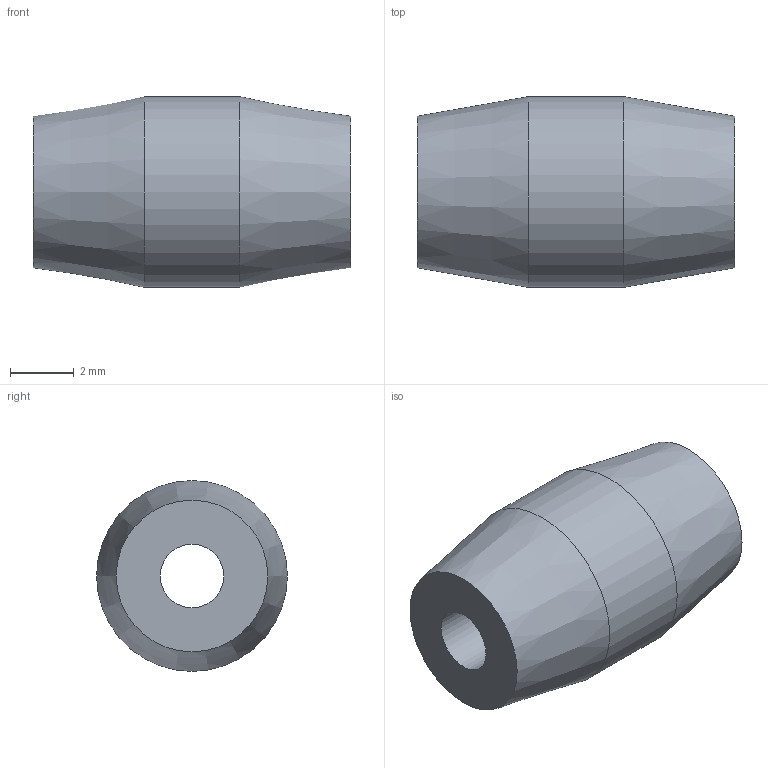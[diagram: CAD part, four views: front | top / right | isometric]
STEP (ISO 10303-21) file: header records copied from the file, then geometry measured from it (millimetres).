
FILE_DESCRIPTION((''),'2;1');
FILE_NAME('I:\Gleitlager\Vertrieb\Labor\robolink\Vertrieb-Tim\Step Daten\RL-SD02-SN01.stp','2011-08-03T12:08:21',('MRaak'),(''),'Autodesk Inventor 2011','Autodesk Inventor 2011','');
FILE_SCHEMA(('AUTOMOTIVE_DESIGN { 1 0 10303 214 1 1 1 1 }'));
Length unit declared in the file: millimetre
Products named in the file (1): IB-10110 (BU-01)
Bounding box: 10 x 6 x 6 mm (x, y, z)
Volume: 213.4 mm3; surface area: 269 mm2
Topology: 1 solids, 1 shells, 6 faces, 10 edges, 6 vertices
Faces by surface type: plane 2, cone 2, cylinder 2
Full cylindrical faces by diameter (mm): 2 x1, 6 x1
Entity records: 154 total; most frequent: DIRECTION 26, CARTESIAN_POINT 19, AXIS2_PLACEMENT_3D 13, ORIENTED_EDGE 12, EDGE_LOOP 12, VERTEX_POINT 6, CIRCLE 6, EDGE_CURVE 6
